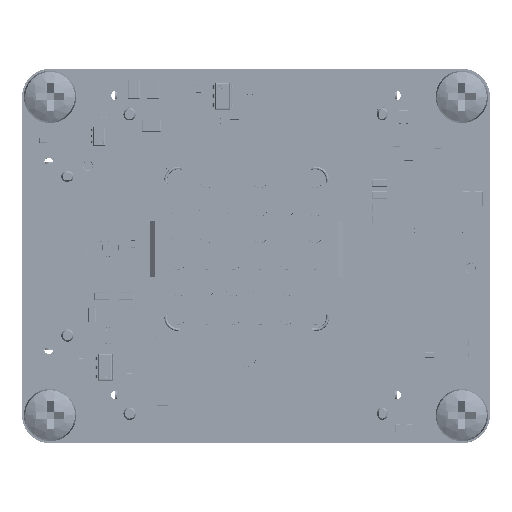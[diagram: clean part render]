
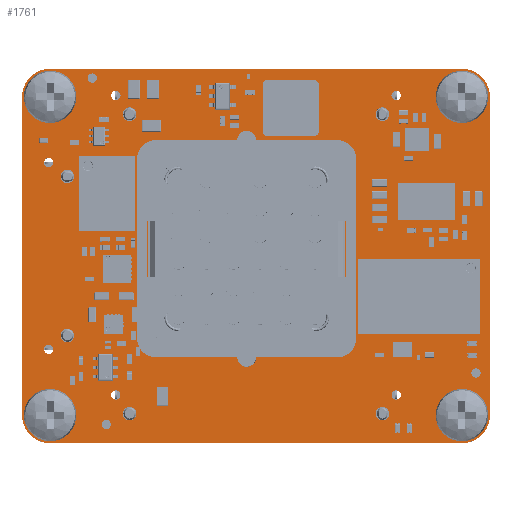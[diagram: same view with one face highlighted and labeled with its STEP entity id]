
A CAD part, top view. The second image highlights one B-rep face of the part: STEP entity #1761.
In plain terms, the highlighted planar face has unit normal (0, 0, 1).
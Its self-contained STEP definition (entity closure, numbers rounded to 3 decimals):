
#920 = VERTEX_POINT('',#921);
#921 = CARTESIAN_POINT('',(0.,3.,1.738));
#927 = EDGE_CURVE('',#920,#928,#930,.T.);
#928 = VERTEX_POINT('',#929);
#929 = CARTESIAN_POINT('',(3.,0.,1.738));
#930 = CIRCLE('',#931,3.001);
#931 = AXIS2_PLACEMENT_3D('',#932,#933,#934);
#932 = CARTESIAN_POINT('',(3.001,3.001,1.738));
#933 = DIRECTION('',(0.,0.,1.));
#934 = DIRECTION('',(-1.,0.,0.));
#960 = EDGE_CURVE('',#928,#961,#963,.T.);
#961 = VERTEX_POINT('',#962);
#962 = CARTESIAN_POINT('',(47.,0.,1.738));
#963 = LINE('',#964,#965);
#964 = CARTESIAN_POINT('',(3.,0.,1.738));
#965 = VECTOR('',#966,1.);
#966 = DIRECTION('',(1.,0.,0.));
#991 = EDGE_CURVE('',#961,#992,#994,.T.);
#992 = VERTEX_POINT('',#993);
#993 = CARTESIAN_POINT('',(50.,3.,1.738));
#994 = CIRCLE('',#995,3.001);
#995 = AXIS2_PLACEMENT_3D('',#996,#997,#998);
#996 = CARTESIAN_POINT('',(46.999,3.001,1.738));
#997 = DIRECTION('',(0.,0.,1.));
#998 = DIRECTION('',(0.,-1.,0.));
#1024 = EDGE_CURVE('',#992,#1025,#1027,.T.);
#1025 = VERTEX_POINT('',#1026);
#1026 = CARTESIAN_POINT('',(50.,37.,1.738));
#1027 = LINE('',#1028,#1029);
#1028 = CARTESIAN_POINT('',(50.,3.,1.738));
#1029 = VECTOR('',#1030,1.);
#1030 = DIRECTION('',(0.,1.,0.));
#1055 = EDGE_CURVE('',#1025,#1056,#1058,.T.);
#1056 = VERTEX_POINT('',#1057);
#1057 = CARTESIAN_POINT('',(47.,40.,1.738));
#1058 = CIRCLE('',#1059,3.001);
#1059 = AXIS2_PLACEMENT_3D('',#1060,#1061,#1062);
#1060 = CARTESIAN_POINT('',(46.999,36.999,1.738)
  );
#1061 = DIRECTION('',(0.,0.,1.));
#1062 = DIRECTION('',(1.,0.,-0.));
#1088 = EDGE_CURVE('',#1056,#1089,#1091,.T.);
#1089 = VERTEX_POINT('',#1090);
#1090 = CARTESIAN_POINT('',(3.,40.,1.738));
#1091 = LINE('',#1092,#1093);
#1092 = CARTESIAN_POINT('',(47.,40.,1.738));
#1093 = VECTOR('',#1094,1.);
#1094 = DIRECTION('',(-1.,0.,0.));
#1119 = EDGE_CURVE('',#1089,#1120,#1122,.T.);
#1120 = VERTEX_POINT('',#1121);
#1121 = CARTESIAN_POINT('',(0.,37.,1.738));
#1122 = CIRCLE('',#1123,3.001);
#1123 = AXIS2_PLACEMENT_3D('',#1124,#1125,#1126);
#1124 = CARTESIAN_POINT('',(3.001,36.999,1.738));
#1125 = DIRECTION('',(0.,0.,1.));
#1126 = DIRECTION('',(0.,1.,0.));
#1152 = EDGE_CURVE('',#1120,#920,#1153,.T.);
#1153 = LINE('',#1154,#1155);
#1154 = CARTESIAN_POINT('',(0.,37.,1.738));
#1155 = VECTOR('',#1156,1.);
#1156 = DIRECTION('',(0.,-1.,0.));
#1176 = VERTEX_POINT('',#1177);
#1177 = CARTESIAN_POINT('',(4.6,3.,1.738));
#1183 = EDGE_CURVE('',#1176,#1176,#1184,.T.);
#1184 = CIRCLE('',#1185,1.6);
#1185 = AXIS2_PLACEMENT_3D('',#1186,#1187,#1188);
#1186 = CARTESIAN_POINT('',(3.,3.,1.738));
#1187 = DIRECTION('',(0.,0.,1.));
#1188 = DIRECTION('',(1.,0.,-0.));
#1209 = VERTEX_POINT('',#1210);
#1210 = CARTESIAN_POINT('',(3.35,10.025,1.738));
#1216 = EDGE_CURVE('',#1209,#1209,#1217,.T.);
#1217 = CIRCLE('',#1218,0.5);
#1218 = AXIS2_PLACEMENT_3D('',#1219,#1220,#1221);
#1219 = CARTESIAN_POINT('',(2.85,10.025,1.738));
#1220 = DIRECTION('',(0.,0.,1.));
#1221 = DIRECTION('',(1.,0.,-0.));
#1242 = VERTEX_POINT('',#1243);
#1243 = CARTESIAN_POINT('',(10.525,5.15,1.738));
#1249 = EDGE_CURVE('',#1242,#1242,#1250,.T.);
#1250 = CIRCLE('',#1251,0.5);
#1251 = AXIS2_PLACEMENT_3D('',#1252,#1253,#1254);
#1252 = CARTESIAN_POINT('',(10.025,5.15,1.738));
#1253 = DIRECTION('',(0.,0.,1.));
#1254 = DIRECTION('',(1.,0.,-0.));
#1275 = VERTEX_POINT('',#1276);
#1276 = CARTESIAN_POINT('',(5.575,11.5,1.738));
#1282 = EDGE_CURVE('',#1275,#1275,#1283,.T.);
#1283 = CIRCLE('',#1284,0.725);
#1284 = AXIS2_PLACEMENT_3D('',#1285,#1286,#1287);
#1285 = CARTESIAN_POINT('',(4.85,11.5,1.738));
#1286 = DIRECTION('',(0.,0.,1.));
#1287 = DIRECTION('',(1.,0.,-0.));
#1308 = VERTEX_POINT('',#1309);
#1309 = CARTESIAN_POINT('',(3.35,29.975,1.738));
#1315 = EDGE_CURVE('',#1308,#1308,#1316,.T.);
#1316 = CIRCLE('',#1317,0.5);
#1317 = AXIS2_PLACEMENT_3D('',#1318,#1319,#1320);
#1318 = CARTESIAN_POINT('',(2.85,29.975,1.738));
#1319 = DIRECTION('',(0.,0.,1.));
#1320 = DIRECTION('',(1.,0.,-0.));
#1341 = VERTEX_POINT('',#1342);
#1342 = CARTESIAN_POINT('',(4.6,37.,1.738));
#1348 = EDGE_CURVE('',#1341,#1341,#1349,.T.);
#1349 = CIRCLE('',#1350,1.6);
#1350 = AXIS2_PLACEMENT_3D('',#1351,#1352,#1353);
#1351 = CARTESIAN_POINT('',(3.,37.,1.738));
#1352 = DIRECTION('',(0.,0.,1.));
#1353 = DIRECTION('',(1.,0.,-0.));
#1374 = VERTEX_POINT('',#1375);
#1375 = CARTESIAN_POINT('',(5.575,28.5,1.738));
#1381 = EDGE_CURVE('',#1374,#1374,#1382,.T.);
#1382 = CIRCLE('',#1383,0.725);
#1383 = AXIS2_PLACEMENT_3D('',#1384,#1385,#1386);
#1384 = CARTESIAN_POINT('',(4.85,28.5,1.738));
#1385 = DIRECTION('',(0.,0.,1.));
#1386 = DIRECTION('',(1.,0.,-0.));
#1407 = VERTEX_POINT('',#1408);
#1408 = CARTESIAN_POINT('',(10.525,37.15,1.738));
#1414 = EDGE_CURVE('',#1407,#1407,#1415,.T.);
#1415 = CIRCLE('',#1416,0.5);
#1416 = AXIS2_PLACEMENT_3D('',#1417,#1418,#1419);
#1417 = CARTESIAN_POINT('',(10.025,37.15,1.738));
#1418 = DIRECTION('',(0.,0.,1.));
#1419 = DIRECTION('',(1.,0.,-0.));
#1440 = VERTEX_POINT('',#1441);
#1441 = CARTESIAN_POINT('',(39.225,3.15,1.738));
#1447 = EDGE_CURVE('',#1440,#1440,#1448,.T.);
#1448 = CIRCLE('',#1449,0.725);
#1449 = AXIS2_PLACEMENT_3D('',#1450,#1451,#1452);
#1450 = CARTESIAN_POINT('',(38.5,3.15,1.738));
#1451 = DIRECTION('',(0.,0.,1.));
#1452 = DIRECTION('',(1.,0.,-0.));
#1473 = VERTEX_POINT('',#1474);
#1474 = CARTESIAN_POINT('',(12.225,3.15,1.738));
#1480 = EDGE_CURVE('',#1473,#1473,#1481,.T.);
#1481 = CIRCLE('',#1482,0.725);
#1482 = AXIS2_PLACEMENT_3D('',#1483,#1484,#1485);
#1483 = CARTESIAN_POINT('',(11.5,3.15,1.738));
#1484 = DIRECTION('',(0.,0.,1.));
#1485 = DIRECTION('',(1.,0.,-0.));
#1506 = VERTEX_POINT('',#1507);
#1507 = CARTESIAN_POINT('',(48.6,3.,1.738));
#1513 = EDGE_CURVE('',#1506,#1506,#1514,.T.);
#1514 = CIRCLE('',#1515,1.6);
#1515 = AXIS2_PLACEMENT_3D('',#1516,#1517,#1518);
#1516 = CARTESIAN_POINT('',(47.,3.,1.738));
#1517 = DIRECTION('',(0.,0.,1.));
#1518 = DIRECTION('',(1.,0.,-0.));
#1539 = VERTEX_POINT('',#1540);
#1540 = CARTESIAN_POINT('',(40.475,5.15,1.738));
#1546 = EDGE_CURVE('',#1539,#1539,#1547,.T.);
#1547 = CIRCLE('',#1548,0.5);
#1548 = AXIS2_PLACEMENT_3D('',#1549,#1550,#1551);
#1549 = CARTESIAN_POINT('',(39.975,5.15,1.738));
#1550 = DIRECTION('',(0.,0.,1.));
#1551 = DIRECTION('',(1.,0.,-0.));
#1572 = VERTEX_POINT('',#1573);
#1573 = CARTESIAN_POINT('',(39.225,35.15,1.738));
#1579 = EDGE_CURVE('',#1572,#1572,#1580,.T.);
#1580 = CIRCLE('',#1581,0.725);
#1581 = AXIS2_PLACEMENT_3D('',#1582,#1583,#1584);
#1582 = CARTESIAN_POINT('',(38.5,35.15,1.738));
#1583 = DIRECTION('',(0.,0.,1.));
#1584 = DIRECTION('',(1.,0.,-0.));
#1605 = VERTEX_POINT('',#1606);
#1606 = CARTESIAN_POINT('',(12.225,35.15,1.738));
#1612 = EDGE_CURVE('',#1605,#1605,#1613,.T.);
#1613 = CIRCLE('',#1614,0.725);
#1614 = AXIS2_PLACEMENT_3D('',#1615,#1616,#1617);
#1615 = CARTESIAN_POINT('',(11.5,35.15,1.738));
#1616 = DIRECTION('',(0.,0.,1.));
#1617 = DIRECTION('',(1.,0.,-0.));
#1638 = VERTEX_POINT('',#1639);
#1639 = CARTESIAN_POINT('',(40.475,37.15,1.738));
#1645 = EDGE_CURVE('',#1638,#1638,#1646,.T.);
#1646 = CIRCLE('',#1647,0.5);
#1647 = AXIS2_PLACEMENT_3D('',#1648,#1649,#1650);
#1648 = CARTESIAN_POINT('',(39.975,37.15,1.738));
#1649 = DIRECTION('',(0.,0.,1.));
#1650 = DIRECTION('',(1.,0.,-0.));
#1671 = VERTEX_POINT('',#1672);
#1672 = CARTESIAN_POINT('',(48.6,37.,1.738));
#1678 = EDGE_CURVE('',#1671,#1671,#1679,.T.);
#1679 = CIRCLE('',#1680,1.6);
#1680 = AXIS2_PLACEMENT_3D('',#1681,#1682,#1683);
#1681 = CARTESIAN_POINT('',(47.,37.,1.738));
#1682 = DIRECTION('',(0.,0.,1.));
#1683 = DIRECTION('',(1.,0.,-0.));
#1761 = ADVANCED_FACE('',(#1762,#1772,#1775,#1778,#1781,#1784,#1787,
    #1790,#1793,#1796,#1799,#1802,#1805,#1808,#1811,#1814,#1817),#1820,
  .T.);
#1762 = FACE_BOUND('',#1763,.T.);
#1763 = EDGE_LOOP('',(#1764,#1765,#1766,#1767,#1768,#1769,#1770,#1771));
#1764 = ORIENTED_EDGE('',*,*,#927,.T.);
#1765 = ORIENTED_EDGE('',*,*,#960,.T.);
#1766 = ORIENTED_EDGE('',*,*,#991,.T.);
#1767 = ORIENTED_EDGE('',*,*,#1024,.T.);
#1768 = ORIENTED_EDGE('',*,*,#1055,.T.);
#1769 = ORIENTED_EDGE('',*,*,#1088,.T.);
#1770 = ORIENTED_EDGE('',*,*,#1119,.T.);
#1771 = ORIENTED_EDGE('',*,*,#1152,.T.);
#1772 = FACE_BOUND('',#1773,.T.);
#1773 = EDGE_LOOP('',(#1774));
#1774 = ORIENTED_EDGE('',*,*,#1183,.F.);
#1775 = FACE_BOUND('',#1776,.T.);
#1776 = EDGE_LOOP('',(#1777));
#1777 = ORIENTED_EDGE('',*,*,#1216,.F.);
#1778 = FACE_BOUND('',#1779,.T.);
#1779 = EDGE_LOOP('',(#1780));
#1780 = ORIENTED_EDGE('',*,*,#1249,.F.);
#1781 = FACE_BOUND('',#1782,.T.);
#1782 = EDGE_LOOP('',(#1783));
#1783 = ORIENTED_EDGE('',*,*,#1282,.F.);
#1784 = FACE_BOUND('',#1785,.T.);
#1785 = EDGE_LOOP('',(#1786));
#1786 = ORIENTED_EDGE('',*,*,#1315,.F.);
#1787 = FACE_BOUND('',#1788,.T.);
#1788 = EDGE_LOOP('',(#1789));
#1789 = ORIENTED_EDGE('',*,*,#1348,.F.);
#1790 = FACE_BOUND('',#1791,.T.);
#1791 = EDGE_LOOP('',(#1792));
#1792 = ORIENTED_EDGE('',*,*,#1381,.F.);
#1793 = FACE_BOUND('',#1794,.T.);
#1794 = EDGE_LOOP('',(#1795));
#1795 = ORIENTED_EDGE('',*,*,#1414,.F.);
#1796 = FACE_BOUND('',#1797,.T.);
#1797 = EDGE_LOOP('',(#1798));
#1798 = ORIENTED_EDGE('',*,*,#1447,.F.);
#1799 = FACE_BOUND('',#1800,.T.);
#1800 = EDGE_LOOP('',(#1801));
#1801 = ORIENTED_EDGE('',*,*,#1480,.F.);
#1802 = FACE_BOUND('',#1803,.T.);
#1803 = EDGE_LOOP('',(#1804));
#1804 = ORIENTED_EDGE('',*,*,#1513,.F.);
#1805 = FACE_BOUND('',#1806,.T.);
#1806 = EDGE_LOOP('',(#1807));
#1807 = ORIENTED_EDGE('',*,*,#1546,.F.);
#1808 = FACE_BOUND('',#1809,.T.);
#1809 = EDGE_LOOP('',(#1810));
#1810 = ORIENTED_EDGE('',*,*,#1579,.F.);
#1811 = FACE_BOUND('',#1812,.T.);
#1812 = EDGE_LOOP('',(#1813));
#1813 = ORIENTED_EDGE('',*,*,#1612,.F.);
#1814 = FACE_BOUND('',#1815,.T.);
#1815 = EDGE_LOOP('',(#1816));
#1816 = ORIENTED_EDGE('',*,*,#1645,.F.);
#1817 = FACE_BOUND('',#1818,.T.);
#1818 = EDGE_LOOP('',(#1819));
#1819 = ORIENTED_EDGE('',*,*,#1678,.F.);
#1820 = PLANE('',#1821);
#1821 = AXIS2_PLACEMENT_3D('',#1822,#1823,#1824);
#1822 = CARTESIAN_POINT('',(25.,20.,1.738));
#1823 = DIRECTION('',(0.,0.,1.));
#1824 = DIRECTION('',(1.,0.,-0.));
